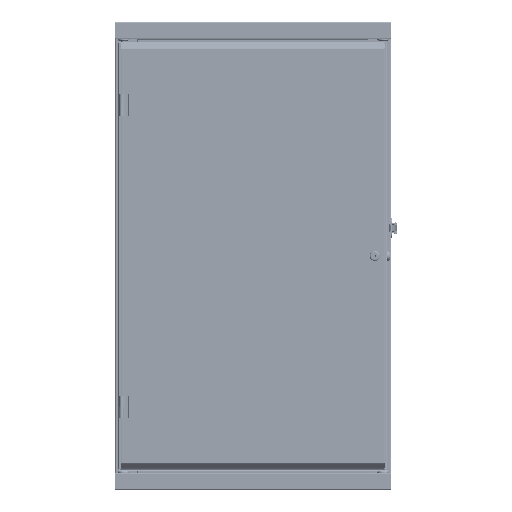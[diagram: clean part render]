
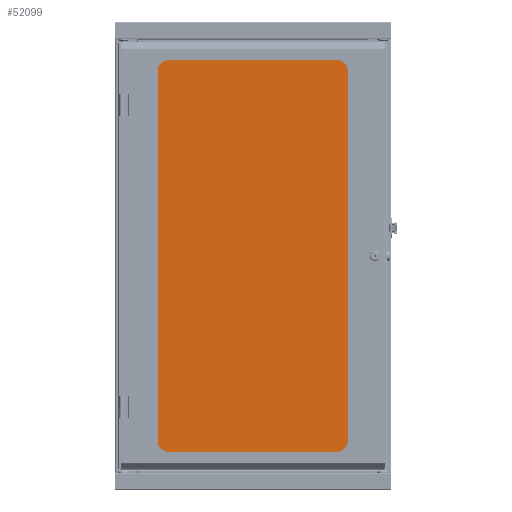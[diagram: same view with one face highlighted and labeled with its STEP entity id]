
A CAD part, front view. The second image highlights one B-rep face of the part: STEP entity #52099.
In plain terms, the highlighted planar face has unit normal (0, -1, 0) as drawn and (0, 1, 0) by its records, which use the part's own axes.
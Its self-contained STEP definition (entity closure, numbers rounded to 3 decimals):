
#4213=LINE('',#87983,#8951);
#4216=LINE('',#87989,#8954);
#4219=LINE('',#87995,#8957);
#4222=LINE('',#88000,#8960);
#8951=VECTOR('',#69735,1000.);
#8954=VECTOR('',#69740,1000.);
#8957=VECTOR('',#69745,1000.);
#8960=VECTOR('',#69750,1000.);
#22887=ORIENTED_EDGE('',*,*,#31691,.F.);
#22888=ORIENTED_EDGE('',*,*,#31700,.F.);
#22889=ORIENTED_EDGE('',*,*,#31697,.F.);
#22890=ORIENTED_EDGE('',*,*,#31694,.F.);
#31691=EDGE_CURVE('',#37144,#37145,#4213,.T.);
#31694=EDGE_CURVE('',#37145,#37147,#4216,.T.);
#31697=EDGE_CURVE('',#37147,#37149,#4219,.T.);
#31700=EDGE_CURVE('',#37149,#37144,#4222,.T.);
#37144=VERTEX_POINT('',#87982);
#37145=VERTEX_POINT('',#87984);
#37147=VERTEX_POINT('',#87990);
#37149=VERTEX_POINT('',#87996);
#43570=EDGE_LOOP('',(#22887,#22888,#22889,#22890));
#47535=FACE_BOUND('',#43570,.T.);
#49522=PLANE('',#57033);
#52099=ADVANCED_FACE('',(#47535),#49522,.F.);
#57033=AXIS2_PLACEMENT_3D('',#88001,#69751,#69752);
#69735=DIRECTION('',(-1.,0.,0.));
#69740=DIRECTION('',(0.,0.,-1.));
#69745=DIRECTION('',(1.,0.,0.));
#69750=DIRECTION('',(0.,0.,1.));
#69751=DIRECTION('',(0.,-1.,0.));
#69752=DIRECTION('',(0.,0.,-1.));
#87982=CARTESIAN_POINT('',(233.363,1.448,461.963));
#87983=CARTESIAN_POINT('',(233.363,1.448,461.963));
#87984=CARTESIAN_POINT('',(-233.363,1.448,461.963));
#87989=CARTESIAN_POINT('',(-233.363,1.448,461.963));
#87990=CARTESIAN_POINT('',(-233.363,1.448,-461.963));
#87995=CARTESIAN_POINT('',(-233.363,1.448,-461.963));
#87996=CARTESIAN_POINT('',(233.363,1.448,-461.963));
#88000=CARTESIAN_POINT('',(233.363,1.448,-461.963));
#88001=CARTESIAN_POINT('',(-233.363,1.448,461.963));
